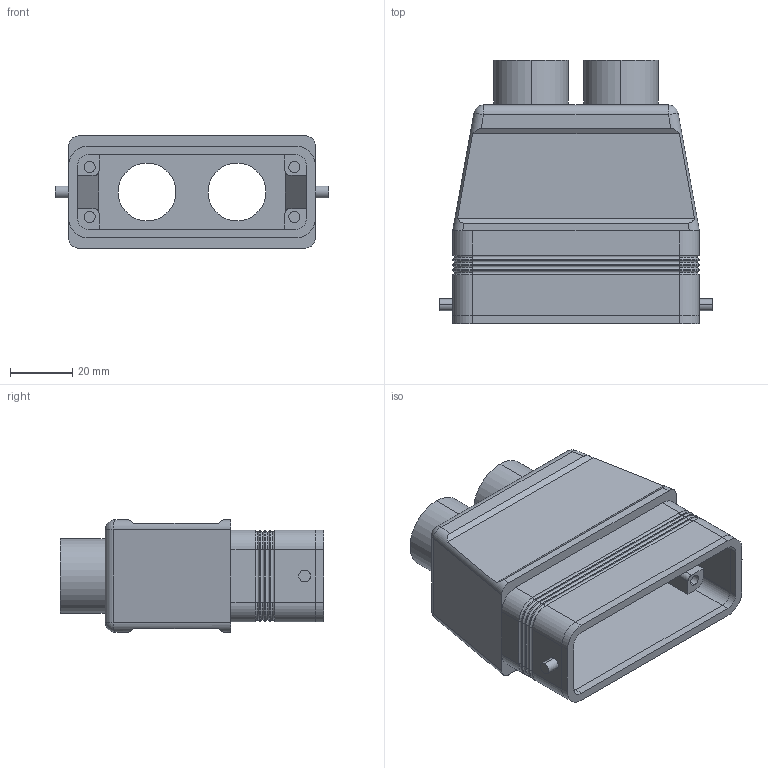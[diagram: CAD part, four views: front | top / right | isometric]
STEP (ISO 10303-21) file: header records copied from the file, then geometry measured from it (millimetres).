
FILE_DESCRIPTION (( 'STEP AP214' ), '1' );
FILE_NAME ('CZAV-25L216.STEP', '2008-03-04T21:52:46', ( 'Bruce Mistarz' ), ( 'Mencom Corp' ), 'SwSTEP 2.0', 'SolidWorks 2007', '' );
FILE_SCHEMA (( 'AUTOMOTIVE_DESIGN' ));
Length unit declared in the file: inch
Products named in the file (1): CZAV-25L216
Bounding box: 88.14 x 85.03 x 36.2 mm (x, y, z)
Volume: 63567.9 mm3; surface area: 37663.1 mm2
Topology: 2 solids, 2 shells, 199 faces, 468 edges, 280 vertices
Faces by surface type: cylinder 88, plane 75, torus 32, sphere 4
Entity records: 5930 total; most frequent: DIRECTION 1060, CARTESIAN_POINT 992, ORIENTED_EDGE 928, EDGE_CURVE 464, AXIS2_PLACEMENT_3D 412, VERTEX_POINT 280, VECTOR 236, LINE 236
